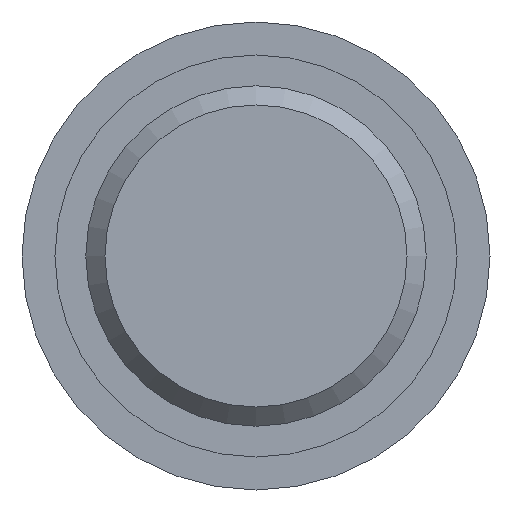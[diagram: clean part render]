
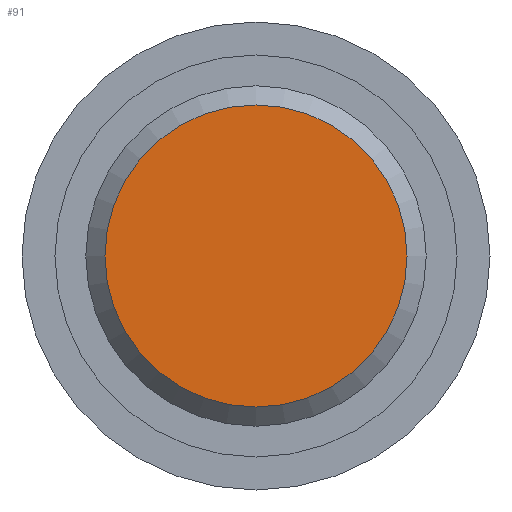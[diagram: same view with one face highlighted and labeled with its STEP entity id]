
A CAD part, front view. The second image highlights one B-rep face of the part: STEP entity #91.
In plain terms, the highlighted planar face has unit normal (0, -1, 0).
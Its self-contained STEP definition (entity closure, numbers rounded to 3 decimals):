
#91 = ADVANCED_FACE( '', ( #138 ), #139, .F. );
#138 = FACE_OUTER_BOUND( '', #193, .T. );
#139 = PLANE( '', #194 );
#193 = EDGE_LOOP( '', ( #308 ) );
#194 = AXIS2_PLACEMENT_3D( '', #309, #310, #311 );
#308 = ORIENTED_EDGE( '', *, *, #359, .T. );
#309 = CARTESIAN_POINT( '', ( 7.1, 0., 0. ) );
#310 = DIRECTION( '', ( 0., 1., 0. ) );
#311 = DIRECTION( '', ( 0., 0., 1. ) );
#359 = EDGE_CURVE( '', #411, #411, #412, .T. );
#411 = VERTEX_POINT( '', #485 );
#412 = CIRCLE( '', #486, 7.1 );
#485 = CARTESIAN_POINT( '', ( 0., 0., -7.1 ) );
#486 = AXIS2_PLACEMENT_3D( '', #538, #539, #540 );
#538 = CARTESIAN_POINT( '', ( 0., 0., 0. ) );
#539 = DIRECTION( '', ( 0., -1., 0. ) );
#540 = DIRECTION( '', ( 0., 0., -1. ) );
